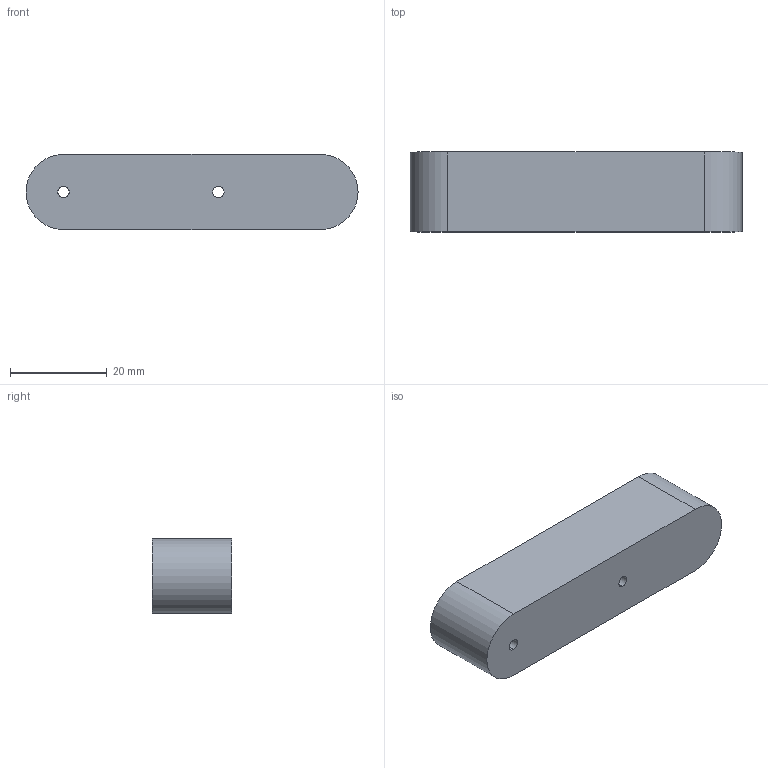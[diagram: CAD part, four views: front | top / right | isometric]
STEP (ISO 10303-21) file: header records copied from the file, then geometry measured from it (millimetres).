
FILE_DESCRIPTION (( 'STEP AP214' ), '1' );
FILE_NAME ('2076_V01_POCKET_CLOSED_SGL_CLIP_SER.STEP', '2025-07-23T15:31:04', ( '' ), ( '' ), 'SwSTEP 2.0', 'SolidWorks 2025', '' );
FILE_SCHEMA (( 'AUTOMOTIVE_DESIGN' ));
Length unit declared in the file: inch
Products named in the file (1): 2076_V01_POCKET_CLOSED_SGL_CLIP_SER
Bounding box: 68.58 x 16.51 x 15.49 mm (x, y, z)
Volume: 7756.9 mm3; surface area: 6539.1 mm2
Topology: 1 solids, 1 shells, 15 faces, 36 edges, 24 vertices
Faces by surface type: cylinder 8, plane 7
Entity records: 481 total; most frequent: DIRECTION 84, CARTESIAN_POINT 76, ORIENTED_EDGE 72, EDGE_CURVE 36, AXIS2_PLACEMENT_3D 32, VERTEX_POINT 24, VECTOR 20, LINE 20
